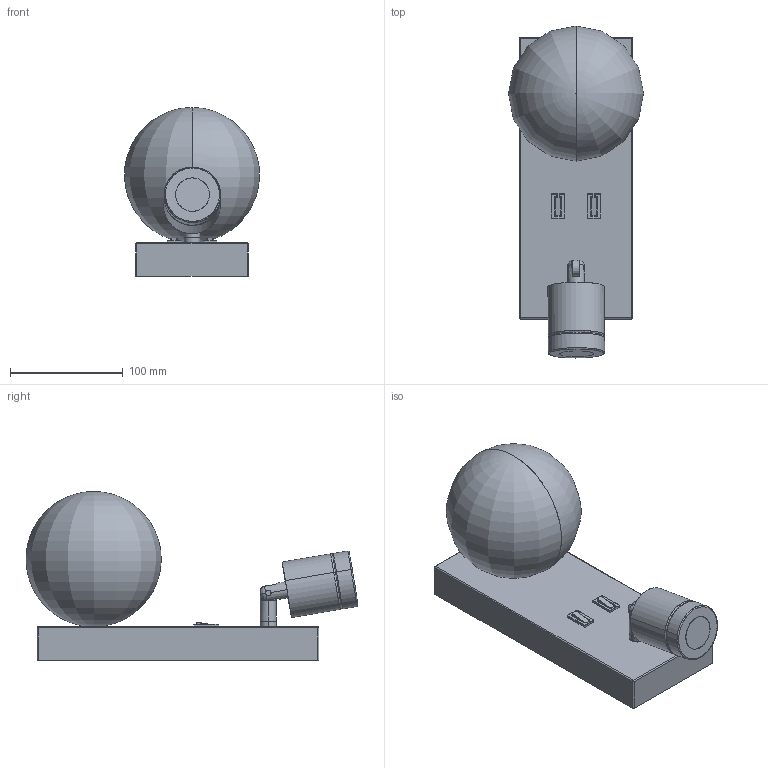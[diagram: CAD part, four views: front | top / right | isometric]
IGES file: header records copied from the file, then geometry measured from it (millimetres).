
Start section: SolidWorks IGES file using analytic representation for surfaces
Global section: file name: C:\Users\Agustin\Desktop\ENERO 2025\2D-3D\2D-3D TEA_1337\TEA_A1337\TEA_A1337.IGS; native system: SolidWorks 2018; preprocessor: SolidWorks 2018; author: Agustin; date: 250117.153915; units: millimetre
Bounding box: 119.95 x 294.67 x 150 mm (x, y, z)
Surface area: 145702.6 mm2 (no closed solid volume)
Topology: 0 solids, 0 shells, 194 faces, 2500 edges, 2494 vertices
Faces by surface type: bspline 101, revolution 93
